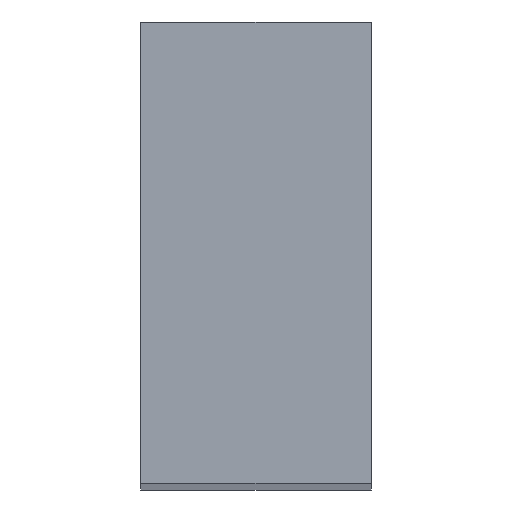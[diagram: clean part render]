
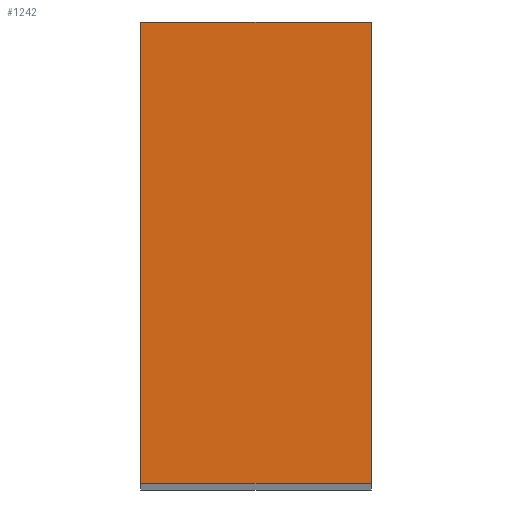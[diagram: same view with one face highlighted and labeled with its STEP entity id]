
A CAD part, top view. The second image highlights one B-rep face of the part: STEP entity #1242.
In plain terms, the highlighted planar face has unit normal (0, 0, 1).
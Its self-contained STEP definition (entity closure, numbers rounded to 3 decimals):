
#120=FACE_OUTER_BOUND('',#184,.T.);
#184=EDGE_LOOP('',(#1091,#1092,#1093,#1094));
#280=LINE('',#2300,#388);
#287=LINE('',#2314,#395);
#292=LINE('',#2323,#400);
#293=LINE('',#2324,#401);
#388=VECTOR('',#1668,10.);
#395=VECTOR('',#1679,10.);
#400=VECTOR('',#1686,10.);
#401=VECTOR('',#1687,10.);
#568=VERTEX_POINT('',#2294);
#570=VERTEX_POINT('',#2298);
#575=VERTEX_POINT('',#2313);
#578=VERTEX_POINT('',#2322);
#744=EDGE_CURVE('',#568,#570,#280,.T.);
#751=EDGE_CURVE('',#575,#568,#287,.T.);
#756=EDGE_CURVE('',#578,#570,#292,.T.);
#757=EDGE_CURVE('',#578,#575,#293,.T.);
#1091=ORIENTED_EDGE('',*,*,#756,.F.);
#1092=ORIENTED_EDGE('',*,*,#757,.T.);
#1093=ORIENTED_EDGE('',*,*,#751,.T.);
#1094=ORIENTED_EDGE('',*,*,#744,.T.);
#1184=PLANE('',#1368);
#1242=ADVANCED_FACE('',(#120),#1184,.T.);
#1368=AXIS2_PLACEMENT_3D('',#2321,#1684,#1685);
#1668=DIRECTION('',(0.,-1.,0.));
#1679=DIRECTION('',(-1.,0.,0.));
#1684=DIRECTION('center_axis',(0.,0.,1.));
#1685=DIRECTION('ref_axis',(0.,1.,0.));
#1686=DIRECTION('',(-1.,0.,0.));
#1687=DIRECTION('',(0.,1.,0.));
#2294=CARTESIAN_POINT('',(-30.,120.,499.8));
#2298=CARTESIAN_POINT('',(-30.,0.,499.8));
#2300=CARTESIAN_POINT('',(-30.,30.,499.8));
#2313=CARTESIAN_POINT('',(30.,120.,499.8));
#2314=CARTESIAN_POINT('',(30.,120.,499.8));
#2321=CARTESIAN_POINT('Origin',(30.,0.,499.8));
#2322=CARTESIAN_POINT('',(30.,0.,499.8));
#2323=CARTESIAN_POINT('',(30.,0.,499.8));
#2324=CARTESIAN_POINT('',(30.,0.,499.8));
